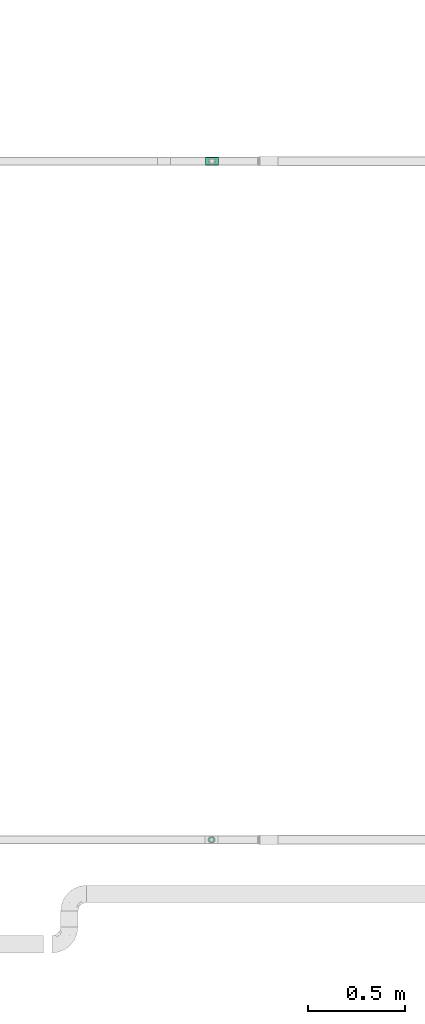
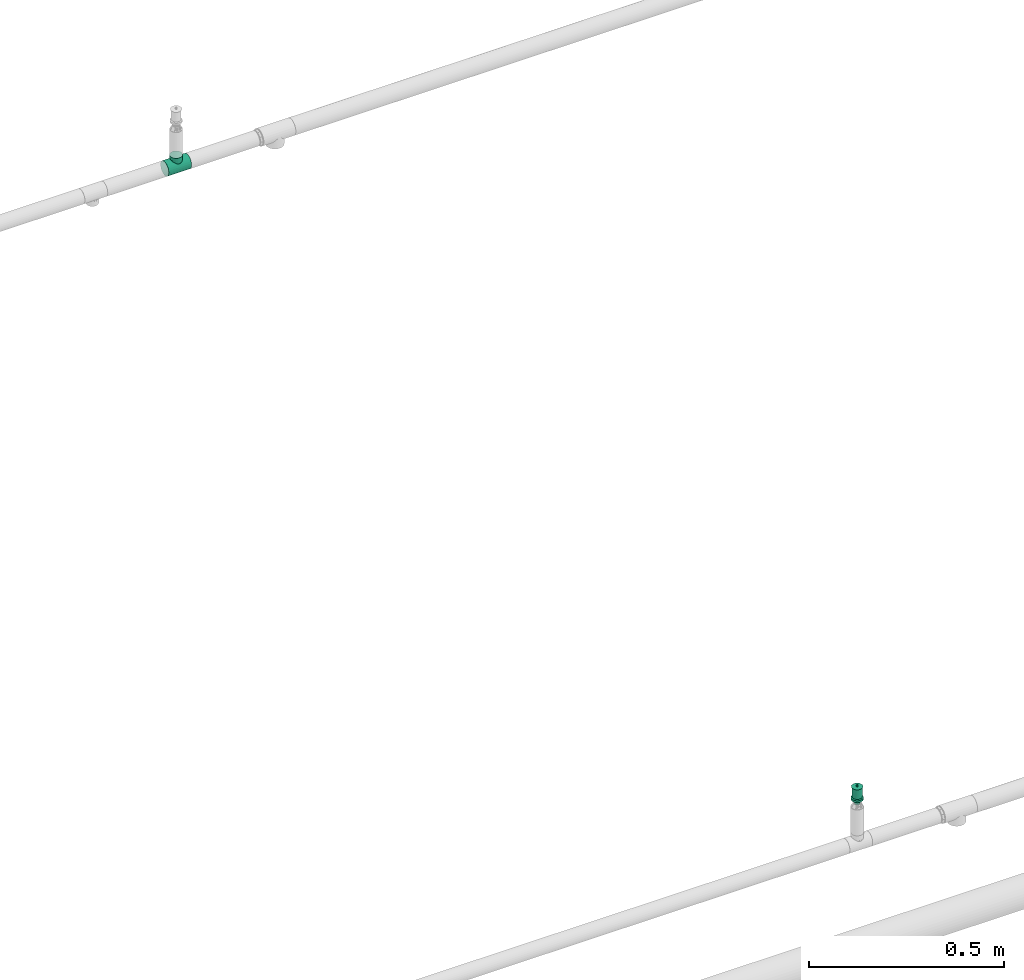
# One storey, part 73 of 94: 1 flow fitting, 1 flow terminal.
"""IFC2X3 building model written with IfcOpenShell, lengths in millimetres."""

from ifc_helpers import new_model, entity, si_unit, converted_unit, derived_unit, direction, frame, origin_with_axes, place, context, subcontext, project, spatial, open_shell, surface_model, source, transform, mapped, type_object, element, save


model = new_model("IFC2X3")

# Units and contexts
model_context = context("Model", 3, precision=0.01, world=frame((0.0, 4.29681676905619e-09, 0.0)), true_north=direction((4.01073788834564e-13, 1.0)))
plan_context = context("Plan", 3, precision=0.01, world=frame((0.0, 4.29681676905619e-09, 0.0)), true_north=direction((4.01073788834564e-13, 1.0)))
body_context = subcontext(model_context, "Body", "Model", "MODEL_VIEW")
ifc_project = project(units=[converted_unit("PLANEANGLEUNIT", "DEGREE", entity("IfcPositiveLengthMeasure", 0.0174532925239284), si_unit("PLANEANGLEUNIT", "RADIAN"), dimensions=[0, 0, 0, 0, 0, 0, 0]), si_unit("AREAUNIT", "SQUARE_METRE"), si_unit("LENGTHUNIT", "METRE", prefix="MILLI"), si_unit("MASSUNIT", "GRAM", prefix="KILO"), si_unit("POWERUNIT", "WATT"), si_unit("PRESSUREUNIT", "PASCAL"), si_unit("FORCEUNIT", "NEWTON", prefix="KILO"), si_unit("ELECTRICCURRENTUNIT", "AMPERE"), si_unit("THERMODYNAMICTEMPERATUREUNIT", "DEGREE_CELSIUS"), si_unit("TIMEUNIT", "SECOND"), si_unit("VOLUMEUNIT", "CUBIC_METRE"), derived_unit("LINEARVELOCITYUNIT", [(si_unit("LENGTHUNIT", "METRE"), 1), (si_unit("TIMEUNIT", "SECOND"), -1)]), derived_unit("VOLUMETRICFLOWRATEUNIT", [(si_unit("VOLUMEUNIT", "CUBIC_METRE"), 1), (si_unit("TIMEUNIT", "SECOND"), -1)]), derived_unit("THERMALTRANSMITTANCEUNIT", [(si_unit("POWERUNIT", "WATT"), 1), (si_unit("THERMODYNAMICTEMPERATUREUNIT", "KELVIN"), -1), (si_unit("AREAUNIT", "SQUARE_METRE"), -1)])], contexts=[model_context, plan_context])

# Site, building, storey
site_placement = place(None, frame((0.0, -4.29681676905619e-09, 0.0), z_axis=(0.0, 0.0, 1.0), x_axis=(1.0, 0.0, 0.0)))
site = spatial("IfcSite", under=ifc_project, at=site_placement, CompositionType="ELEMENT")
building_placement = place(site_placement, frame((0.0, 4.29681676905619e-09, 0.0), z_axis=(0.0, 0.0, 1.0), x_axis=(1.0, 0.0, 0.0)))
building = spatial("IfcBuilding", under=site, at=building_placement, Name="mc-building", CompositionType="ELEMENT")
storey_placement = place(building_placement, frame((0.0, 0.0, 200300.0), z_axis=(0.0, 0.0, 1.0), x_axis=(1.0, 0.0, 0.0)))
storey = spatial("IfcBuildingStorey", under=building, at=storey_placement, Name="Nivå C", CompositionType="ELEMENT", Elevation=200300.0)

# Flow fitting
pipe_fitting_type = type_object("IfcPipeFittingType", Name="magi_pipe_fe_tee_centric_90_NOR", PredefinedType="JUNCTION")
shared_shape_1 = source(origin_with_axes(), body_context, "Body", "SurfaceModel", [
    surface_model("IfcShellBasedSurfaceModel", [(-33.8, 0.0, -21.2), (-33.8, -5.48696, -20.47763), (-33.8, 5.48696, -20.47763), (-33.8, 10.6, -18.35974), (-33.8, 14.99066, -14.99066), (-33.8, -20.47763, 5.48696), (-33.8, 18.35974, -10.6), (-33.8, 10.6, 18.35974), (-33.8, -14.99066, -14.99066), (-33.8, -18.35974, -10.6), (-33.8, -10.6, -18.35974), (-33.8, -20.47763, -5.48696), (-33.8, -21.2, 0.0), (-33.8, 18.35974, 10.6), (-33.8, 20.47763, -5.48696), (-33.8, 20.47763, 5.48696), (-33.8, 21.2, 0.0), (-33.8, 14.99066, 14.99066), (-33.8, 5.48696, 20.47763), (-33.8, 0.0, 21.2), (-33.8, -18.35974, 10.6), (-33.8, -14.99066, 14.99066), (-33.8, -10.6, 18.35974), (-33.8, -5.48696, 20.47763), (33.8, 5.48696, -20.47763), (33.8, -5.48696, -20.47763), (33.8, 0.0, -21.2), (33.8, 14.99066, -14.99066), (33.8, 10.6, -18.35974), (33.8, 18.35974, -10.6), (33.8, 20.47763, -5.48696), (33.8, -21.2, 0.0), (33.8, -10.6, -18.35974), (33.8, -18.35974, -10.6), (33.8, -14.99066, -14.99066), (33.8, -20.47763, -5.48696), (33.8, -20.47763, 5.48696), (33.8, 21.2, 0.0), (33.8, 20.47763, 5.48696), (33.8, 18.35974, 10.6), (33.8, 10.6, 18.35974), (33.8, 14.99066, 14.99066), (33.8, 0.0, 21.2), (33.8, 5.48696, 20.47763), (33.8, -14.99066, 14.99066), (33.8, -18.35974, 10.6), (33.8, -10.6, 18.35974), (33.8, -5.48696, 20.47763), (16.9, -21.2, 0.0), (15.78624, -20.32327, 6.03364), (12.81343, -18.11115, 11.01935), (8.52479, -15.37862, 14.59239), (3.07939, -13.16482, 16.61708), (-16.9, -21.2, 0.0), (-15.78686, -20.32375, 6.032), (-8.52604, -15.37932, 14.59166), (-3.0848, -13.16609, 16.61608), (-12.81602, -18.11299, 11.01634), (3.07939, -13.16482, -16.61708), (12.81343, -18.11115, -11.01935), (8.52479, -15.37862, -14.59239), (15.78624, -20.32327, -6.03364), (-3.0848, -13.16609, -16.61608), (-8.52604, -15.37932, -14.59166), (-12.81602, -18.11299, -11.01634), (-15.78686, -20.32375, -6.032), (4.37404, -31.8, -16.32415), (-16.9, -31.8, 0.0), (0.0, -31.8, -16.9), (14.63583, -31.8, -8.45), (8.45, -31.8, -14.63583), (16.32415, -31.8, -4.37404), (11.9501, -31.8, -11.9501), (-11.9501, -31.8, -11.9501), (-8.45, -31.8, -14.63583), (-4.37404, -31.8, -16.32415), (-14.63583, -31.8, -8.45), (-16.32415, -31.8, -4.37404), (16.9, -31.8, 0.0), (8.45, -31.8, 14.63583), (16.32415, -31.8, 4.37404), (14.63583, -31.8, 8.45), (-8.45, -31.8, 14.63583), (11.9501, -31.8, 11.9501), (4.37404, -31.8, 16.32415), (-16.32415, -31.8, 4.37404), (-11.9501, -31.8, 11.9501), (-14.63583, -31.8, 8.45), (0.0, -31.8, 16.9), (-4.37404, -31.8, 16.32415), (-16.34343, -20.76188, 3.016), (16.34312, -20.76163, 3.01682), (-0.00271, -13.16546, 16.61658), (16.34312, -20.76163, -3.01682), (-0.00271, -13.16546, -16.61658), (-16.34343, -20.76188, -3.016)], [open_shell([[[0, 1, 2]], [[3, 2, 4]], [[5, 2, 1]], [[4, 2, 6]], [[6, 2, 7]], [[8, 9, 10]], [[1, 10, 9]], [[9, 11, 1]], [[12, 1, 11]], [[5, 1, 12]], [[13, 14, 6]], [[13, 15, 16]], [[6, 7, 13]], [[5, 7, 2]], [[17, 13, 7]], [[18, 7, 19]], [[20, 21, 5]], [[22, 5, 21]], [[23, 19, 22]], [[7, 5, 22]], [[22, 19, 7]], [[16, 14, 13]], [[24, 25, 26]], [[27, 24, 28]], [[29, 30, 24]], [[29, 24, 27]], [[31, 24, 30]], [[32, 33, 34]], [[33, 32, 25]], [[33, 31, 35]], [[31, 33, 25]], [[25, 24, 31]], [[30, 36, 31]], [[37, 38, 39]], [[37, 39, 40]], [[37, 40, 36]], [[40, 39, 41]], [[42, 40, 43]], [[36, 44, 45]], [[44, 36, 46]], [[46, 42, 47]], [[46, 36, 40]], [[40, 42, 46]], [[37, 36, 30]], [[31, 36, 48]], [[49, 48, 36]], [[36, 45, 49]], [[45, 44, 50]], [[51, 50, 44]], [[52, 51, 44]], [[44, 46, 52]], [[45, 50, 49]], [[53, 54, 5]], [[5, 12, 53]], [[54, 20, 5]], [[55, 56, 21]], [[20, 57, 21]], [[57, 20, 54]], [[21, 57, 55]], [[56, 22, 21]], [[52, 22, 56]], [[19, 47, 42]], [[23, 46, 47]], [[18, 42, 43]], [[39, 38, 15]], [[17, 40, 41]], [[13, 41, 39]], [[43, 40, 7]], [[16, 38, 37]], [[22, 46, 23]], [[23, 47, 19]], [[18, 19, 42]], [[43, 7, 18]], [[7, 40, 17]], [[13, 17, 41]], [[15, 13, 39]], [[38, 16, 15]], [[46, 22, 52]], [[6, 30, 29]], [[14, 37, 30]], [[4, 29, 27]], [[26, 25, 1]], [[2, 28, 24]], [[0, 24, 26]], [[27, 28, 3]], [[10, 25, 32]], [[16, 37, 14]], [[14, 30, 6]], [[4, 6, 29]], [[27, 3, 4]], [[3, 28, 2]], [[0, 2, 24]], [[1, 0, 26]], [[25, 10, 1]], [[32, 58, 10]], [[34, 59, 60]], [[59, 34, 33]], [[60, 58, 34]], [[34, 58, 32]], [[35, 31, 48]], [[35, 61, 33]], [[61, 35, 48]], [[33, 61, 59]], [[62, 63, 8]], [[8, 64, 9]], [[64, 8, 63]], [[62, 8, 10]], [[65, 53, 11]], [[65, 11, 9]], [[11, 53, 12]], [[65, 9, 64]], [[58, 62, 10]], [[66, 67, 68]], [[69, 66, 70]], [[69, 71, 66]], [[69, 70, 72]], [[67, 66, 71]], [[68, 73, 74]], [[74, 75, 68]], [[76, 67, 77]], [[73, 68, 76]], [[67, 76, 68]], [[71, 78, 67]], [[79, 78, 80]], [[79, 80, 81]], [[82, 67, 79]], [[79, 81, 83]], [[82, 79, 84]], [[85, 86, 87]], [[86, 85, 82]], [[82, 88, 89]], [[85, 67, 82]], [[84, 88, 82]], [[79, 67, 78]], [[85, 90, 67]], [[57, 87, 86]], [[85, 87, 54]], [[86, 82, 55]], [[85, 54, 90]], [[90, 53, 67]], [[54, 87, 57]], [[91, 49, 80]], [[55, 89, 56]], [[55, 57, 86]], [[88, 52, 92]], [[55, 82, 89]], [[52, 88, 84]], [[79, 51, 84]], [[50, 83, 81]], [[83, 51, 79]], [[81, 80, 49]], [[83, 50, 51]], [[51, 52, 84]], [[78, 91, 80]], [[49, 50, 81]], [[91, 78, 48]], [[88, 56, 89]], [[92, 56, 88]], [[71, 93, 78]], [[59, 69, 72]], [[71, 69, 61]], [[72, 70, 60]], [[93, 48, 78]], [[61, 69, 59]], [[60, 66, 58]], [[60, 59, 72]], [[68, 62, 94]], [[60, 70, 66]], [[95, 67, 53]], [[95, 65, 77]], [[71, 61, 93]], [[75, 62, 68]], [[65, 76, 77]], [[73, 76, 64]], [[68, 58, 66]], [[75, 63, 62]], [[63, 75, 74]], [[74, 73, 63]], [[63, 73, 64]], [[64, 76, 65]], [[67, 95, 77]], [[94, 58, 68]]])]),
])
flow_fitting_placement = place(storey_placement, frame((530502.26879, 413500.1625, 2850.0), z_axis=(0.0, -1.0, 0.0), x_axis=(-1.0, 0.0, 0.0)))
element("IfcFlowFitting", 1, at=flow_fitting_placement, inside=storey, type_object=pipe_fitting_type, Name="magi_pipe_fe_tee_centric_90_NOR", context=body_context, shape_type="MappedRepresentation", body=[
    mapped(shared_shape_1, transform((0.0, 0.0, 0.0), scale=1.0)),
])

# Flow terminal
fire_suppression_terminal_type = type_object("IfcFireSuppressionTerminalType", Name="68DGR-STD-STÅENDE", PredefinedType="NOTDEFINED")
shared_shape_2 = source(origin_with_axes(), body_context, "Body", "SurfaceModel", [
    surface_model("IfcShellBasedSurfaceModel", [(12.55704, 3.36465, 21.14766), (13.0, 0.0, 21.14766), (12.55704, -3.36465, 21.14766), (-12.55704, -3.36465, 21.14766), (-11.25833, -6.5, 21.14766), (-11.25833, -6.5, 51.0), (3.36465, -12.55704, 51.0), (3.36465, -12.55704, 21.14766), (6.5, -11.25833, 21.14766), (9.19239, -9.19239, 21.14766), (11.25833, -6.5, 21.14766), (9.19239, -9.19239, 51.0), (6.5, -11.25833, 51.0), (11.25833, -6.5, 51.0), (12.55704, -3.36465, 51.0), (13.0, 0.0, 51.0), (9.19239, 9.19239, 51.0), (11.25833, 6.5, 21.14766), (9.19239, 9.19239, 21.14766), (11.25833, 6.5, 51.0), (12.55704, 3.36465, 51.0), (6.5, 11.25833, 51.0), (6.5, 11.25833, 21.14766), (3.36465, 12.55704, 21.14766), (3.36465, 12.55704, 51.0), (-11.25833, 6.5, 51.0), (-11.25833, 6.5, 21.14766), (-12.55704, 3.36465, 21.14766), (0.0, -2.5, 51.0), (-2.5, 0.0, 51.0), (0.0, 2.5, 51.0), (2.5, 0.0, 51.0), (11.31371, 11.31371, 53.0), (-11.31371, 11.31371, 53.0), (-11.31371, -11.31371, 53.0), (11.31371, -11.31371, 53.0), (1.62635, 1.62635, 51.0), (2.16506, 1.25, 51.0), (1.99186, 1.15, 51.0), (-1.76777, 1.76777, 51.0), (-1.25, 2.16506, 51.0), (-1.62635, 1.62635, 51.0), (1.99186, -1.15, 51.0), (2.16506, -1.25, 51.0), (1.62635, -1.62635, 51.0), (-1.62635, -1.62635, 51.0), (-1.25, -2.16506, 51.0), (-1.76777, -1.76777, 51.0), (0.0, 7.3, 0.0), (1.94114, 7.24444, 0.0), (1.88938, 7.05126, 0.0), (5.16188, 5.16188, 0.0), (6.49519, 3.75, 0.0), (6.32199, 3.65, 0.0), (-5.3033, 5.3033, 0.0), (-3.75, 6.49519, 0.0), (-5.16188, 5.16188, 0.0), (6.32199, -3.65, 0.0), (6.49519, -3.75, 0.0), (5.16188, -5.16188, 0.0), (1.88938, -7.05126, 0.0), (1.94114, -7.24444, 0.0), (0.0, -7.3, 0.0), (-5.16188, -5.16188, 0.0), (-3.75, -6.49519, 0.0), (-5.3033, -5.3033, 0.0), (-3.36465, 12.55704, 51.0), (-6.5, 11.25833, 51.0), (0.0, 13.0, 51.0), (-9.19239, 9.19239, 51.0), (0.0, -13.0, 51.0), (-9.19239, -9.19239, 51.0), (-12.55704, -3.36465, 51.0), (-6.5, -11.25833, 51.0), (-3.36465, -12.55704, 51.0), (-7.5, 0.0, -0.1), (-7.24444, 1.94114, 0.1), (-7.24444, 1.94114, -0.1), (-6.49519, 3.75, 0.1), (-6.49519, 3.75, -0.1), (-3.75, 6.49519, -0.1), (-5.3033, 5.3033, -0.1), (-3.75, 6.49519, 0.1), (-5.3033, 5.3033, 0.1), (-1.94114, 7.24444, -0.1), (-1.94114, 7.24444, 0.1), (-7.5, 0.0, 0.1), (0.0, 7.5, 0.1), (0.0, 7.5, -0.1), (1.94114, 7.24444, 0.1), (1.94114, 7.24444, -0.1), (3.75, 6.49519, 0.1), (3.75, 6.49519, -0.1), (6.49519, 3.75, -0.1), (5.3033, 5.3033, -0.1), (6.49519, 3.75, 0.1), (5.3033, 5.3033, 0.1), (7.24444, 1.94114, -0.1), (7.24444, 1.94114, 0.1), (7.5, 0.0, 0.1), (7.5, 0.0, -0.1), (-7.24444, -1.94114, 0.1), (7.24444, -1.94114, 0.1), (5.3033, -5.3033, 0.1), (6.49519, -3.75, 0.1), (-6.49519, -3.75, 0.1), (0.0, -7.5, 0.1), (1.94114, -7.24444, 0.1), (3.75, -6.49519, 0.1), (-3.75, -6.49519, 0.1), (-1.94114, -7.24444, 0.1), (-5.3033, -5.3033, 0.1), (0.0, -7.5, -0.1), (-6.49519, -3.75, -0.1), (1.94114, -7.24444, -0.1), (3.75, -6.49519, -0.1), (5.3033, -5.3033, -0.1), (7.24444, -1.94114, -0.1), (6.49519, -3.75, -0.1), (-3.75, -6.49519, -0.1), (-5.3033, -5.3033, -0.1), (-1.94114, -7.24444, -0.1), (-7.24444, -1.94114, -0.1), (16.0, 0.0, 53.0), (0.0, -16.0, 53.0), (-16.0, 0.0, 53.0), (0.0, 16.0, 53.0), (0.64705, 2.41481, 57.0), (0.0, 2.5, 57.0), (1.25, 2.16506, 57.0), (-2.5, 0.0, 57.0), (1.76777, 1.76777, 57.0), (2.41481, 0.64705, 57.0), (2.16506, 1.25, 57.0), (-0.64705, 2.41481, 57.0), (-1.25, 2.16506, 57.0), (-1.76777, 1.76777, 57.0), (-2.16506, 1.25, 57.0), (-2.41481, 0.64705, 57.0), (2.5, 0.0, 57.0), (1.76777, -1.76777, 57.0), (2.16506, -1.25, 57.0), (2.41481, -0.64705, 57.0), (-2.41481, -0.64705, 57.0), (0.64705, -2.41481, 57.0), (1.25, -2.16506, 57.0), (0.0, -2.5, 57.0), (-1.76777, -1.76777, 57.0), (-2.16506, -1.25, 57.0), (-1.25, -2.16506, 57.0), (-0.64705, -2.41481, 57.0), (1.15, -1.99186, 51.0), (1.76777, -1.76777, 51.0), (1.25, -2.16506, 51.0), (0.59528, -2.22163, 51.0), (0.0, -2.3, 51.0), (0.64705, -2.41481, 51.0), (2.22163, -0.59528, 51.0), (2.3, 0.0, 51.0), (2.41481, -0.64705, 51.0), (-0.64705, -2.41481, 51.0), (-0.59528, -2.22163, 51.0), (-1.15, -1.99186, 51.0), (-2.16506, -1.25, 51.0), (-1.99186, -1.15, 51.0), (-2.22163, -0.59528, 51.0), (-2.3, 0.0, 51.0), (-2.41481, -0.64705, 51.0), (2.22163, 0.59528, 51.0), (2.41481, 0.64705, 51.0), (1.76777, 1.76777, 51.0), (1.15, 1.99186, 51.0), (1.25, 2.16506, 51.0), (0.59528, 2.22163, 51.0), (0.0, 2.3, 51.0), (0.64705, 2.41481, 51.0), (-1.99186, 1.15, 51.0), (-2.16506, 1.25, 51.0), (-2.41481, 0.64705, 51.0), (-2.22163, 0.59528, 51.0), (-0.64705, 2.41481, 51.0), (-0.59528, 2.22163, 51.0), (-1.15, 1.99186, 51.0), (-2.22163, 0.59528, 56.8), (-1.99186, 1.15, 56.8), (-1.15, 1.99186, 56.8), (-1.62635, 1.62635, 56.8), (-0.59528, 2.22163, 56.8), (-2.3, 0.0, 56.8), (0.0, 2.3, 56.8), (0.59528, 2.22163, 56.8), (1.15, 1.99186, 56.8), (1.99186, 1.15, 56.8), (1.62635, 1.62635, 56.8), (2.22163, 0.59528, 56.8), (2.3, 0.0, 56.8), (2.22163, -0.59528, 56.8), (1.99186, -1.15, 56.8), (1.62635, -1.62635, 56.8), (1.15, -1.99186, 56.8), (0.59528, -2.22163, 56.8), (0.0, -2.3, 56.8), (-1.99186, -1.15, 56.8), (-2.22163, -0.59528, 56.8), (-1.62635, -1.62635, 56.8), (-0.59528, -2.22163, 56.8), (-1.15, -1.99186, 56.8), (8.0, -13.85641, 13.0), (4.1411, -15.45481, 13.0), (0.0, -16.0, 13.0), (-4.1411, -15.45481, 13.0), (15.45481, -4.1411, 13.0), (13.85641, -8.0, 13.0), (11.31371, -11.31371, 13.0), (-16.0, 0.0, 13.0), (-8.0, -13.85641, 13.0), (-11.31371, -11.31371, 13.0), (-13.85641, -8.0, 13.0), (-15.45481, -4.1411, 13.0), (15.45481, 4.1411, 13.0), (4.1411, 15.45481, 13.0), (13.85641, 8.0, 13.0), (8.0, 13.85641, 13.0), (11.31371, 11.31371, 13.0), (-15.45481, 4.1411, 13.0), (-11.31371, 11.31371, 13.0), (-8.0, 13.85641, 13.0), (-13.85641, 8.0, 13.0), (-4.1411, 15.45481, 13.0), (0.0, 16.0, 13.0), (16.0, 0.0, 13.0), (7.05126, 1.88938, 12.8), (1.88938, 7.05126, 12.8), (3.65, 6.32199, 12.8), (6.32199, 3.65, 12.8), (5.16188, 5.16188, 12.8), (7.3, 0.0, 12.8), (0.0, 7.3, 12.8), (-3.65, 6.32199, 12.8), (-1.88938, 7.05126, 12.8), (-5.16188, 5.16188, 12.8), (-7.05126, 1.88938, 12.8), (-6.32199, 3.65, 12.8), (7.05126, -1.88938, 12.8), (0.0, -7.3, 12.8), (6.32199, -3.65, 12.8), (3.65, -6.32199, 12.8), (5.16188, -5.16188, 12.8), (1.88938, -7.05126, 12.8), (-7.3, 0.0, 12.8), (-6.32199, -3.65, 12.8), (-7.05126, -1.88938, 12.8), (-1.88938, -7.05126, 12.8), (-5.16188, -5.16188, 12.8), (-3.65, -6.32199, 12.8), (-7.05126, 1.88938, 0.0), (-7.3, 0.0, 0.0), (-6.32199, 3.65, 0.0), (-3.65, 6.32199, 0.0), (-1.88938, 7.05126, 0.0), (3.65, 6.32199, 0.0), (7.05126, 1.88938, 0.0), (7.3, 0.0, 0.0), (3.75, 6.49519, 13.0), (1.94114, 7.24444, 13.0), (7.5, 0.0, 13.0), (5.3033, 5.3033, 13.0), (7.24444, 1.94114, 13.0), (6.49519, 3.75, 13.0), (-5.3033, 5.3033, 13.0), (-7.24444, -1.94114, 13.0), (-1.94114, 7.24444, 13.0), (-3.75, 6.49519, 13.0), (0.0, 7.5, 13.0), (-6.49519, 3.75, 13.0), (-7.24444, 1.94114, 13.0), (7.24444, -1.94114, 13.0), (5.3033, -5.3033, 13.0), (6.49519, -3.75, 13.0), (-6.49519, -3.75, 13.0), (0.0, -7.5, 13.0), (1.94114, -7.24444, 13.0), (3.75, -6.49519, 13.0), (-7.5, 0.0, 13.0), (-3.75, -6.49519, 13.0), (-1.94114, -7.24444, 13.0), (-5.3033, -5.3033, 13.0), (3.65, -6.32199, 0.0), (5.3033, -5.3033, 0.0), (3.75, -6.49519, 0.0), (0.0, -7.5, 0.0), (7.05126, -1.88938, 0.0), (7.24444, -1.94114, 0.0), (7.5, 0.0, 0.0), (-1.94114, -7.24444, 0.0), (-1.88938, -7.05126, 0.0), (-3.65, -6.32199, 0.0), (-6.49519, -3.75, 0.0), (-6.32199, -3.65, 0.0), (-7.05126, -1.88938, 0.0), (-7.24444, -1.94114, 0.0), (-7.5, 0.0, 0.0), (7.24444, 1.94114, 0.0), (5.3033, 5.3033, 0.0), (3.75, 6.49519, 0.0), (0.0, 7.5, 0.0), (-6.49519, 3.75, 0.0), (-7.24444, 1.94114, 0.0), (-1.94114, 7.24444, 0.0), (-12.55704, 3.36465, 51.0), (-13.0, 0.0, 51.0), (0.0, -13.0, 21.14766), (-3.36465, -12.55704, 21.14766), (-6.5, -11.25833, 21.14766), (-9.19239, -9.19239, 21.14766), (-13.0, 0.0, 21.14766), (-9.19239, 9.19239, 21.14766), (-6.5, 11.25833, 21.14766), (-3.36465, 12.55704, 21.14766), (0.0, 13.0, 21.14766), (11.31371, 11.31371, 19.0), (8.0, 13.85641, 19.0), (4.1411, 15.45481, 19.0), (-8.0, 13.85641, 19.0), (16.0, 0.0, 19.0), (15.45481, 4.1411, 19.0), (13.85641, 8.0, 19.0), (-4.1411, 15.45481, 19.0), (0.0, 16.0, 19.0), (-11.31371, 11.31371, 19.0), (-13.85641, 8.0, 19.0), (-15.45481, 4.1411, 19.0), (15.45481, -4.1411, 19.0), (11.31371, -11.31371, 19.0), (13.85641, -8.0, 19.0), (-16.0, 0.0, 19.0), (0.0, -16.0, 19.0), (4.1411, -15.45481, 19.0), (8.0, -13.85641, 19.0), (-13.85641, -8.0, 19.0), (-11.31371, -11.31371, 19.0), (-15.45481, -4.1411, 19.0), (-8.0, -13.85641, 19.0), (-4.1411, -15.45481, 19.0)], [open_shell([[[0, 1, 2]], [[3, 4, 5]], [[6, 7, 8]], [[9, 10, 11]], [[9, 11, 12]], [[10, 13, 11]], [[14, 13, 2]], [[1, 15, 14]], [[16, 17, 18]], [[0, 19, 20]], [[20, 15, 1]], [[21, 16, 18]], [[22, 23, 24]], [[16, 19, 17]], [[25, 26, 27]], [[28, 29, 30]], [[30, 31, 28]], [[31, 30, 32]], [[33, 30, 29]], [[29, 28, 34]], [[35, 28, 31]], [[36, 37, 38]], [[39, 40, 41]], [[42, 43, 44]], [[45, 46, 47]], [[48, 49, 50]], [[51, 52, 53]], [[54, 55, 56]], [[57, 58, 59]], [[60, 61, 62]], [[63, 64, 65]], [[66, 67, 68]], [[67, 24, 68]], [[69, 25, 67]], [[15, 20, 14]], [[70, 6, 12]], [[5, 71, 72]], [[73, 74, 71]], [[72, 71, 74]], [[75, 76, 77]], [[77, 78, 79]], [[80, 81, 82]], [[83, 81, 79]], [[84, 80, 85]], [[76, 78, 77]], [[75, 86, 76]], [[80, 82, 85]], [[82, 81, 83]], [[79, 78, 83]], [[84, 85, 87]], [[87, 88, 84]], [[88, 89, 90]], [[90, 91, 92]], [[93, 94, 95]], [[96, 94, 92]], [[97, 93, 98]], [[91, 96, 92]], [[90, 89, 91]], [[97, 98, 99]], [[98, 93, 95]], [[94, 96, 95]], [[97, 99, 100]], [[87, 89, 88]], [[91, 89, 99]], [[96, 91, 98]], [[91, 99, 98]], [[95, 96, 98]], [[89, 83, 101]], [[85, 82, 87]], [[83, 87, 82]], [[78, 76, 83]], [[89, 87, 83]], [[76, 101, 83]], [[102, 99, 89]], [[103, 104, 102]], [[89, 105, 103]], [[103, 106, 107]], [[108, 103, 107]], [[106, 103, 105]], [[89, 101, 105]], [[101, 76, 86]], [[109, 110, 111]], [[105, 111, 110]], [[106, 105, 110]], [[103, 102, 89]], [[112, 113, 114]], [[115, 114, 116]], [[117, 118, 116]], [[113, 116, 114]], [[116, 113, 117]], [[119, 120, 121]], [[113, 121, 120]], [[121, 113, 112]], [[113, 122, 117]], [[75, 77, 122]], [[100, 117, 122]], [[100, 81, 97]], [[93, 97, 90]], [[90, 92, 94]], [[93, 90, 94]], [[90, 97, 81]], [[79, 81, 77]], [[77, 81, 122]], [[84, 88, 80]], [[81, 80, 88]], [[81, 88, 90]], [[100, 122, 81]], [[100, 102, 117]], [[117, 104, 118]], [[115, 116, 108]], [[103, 116, 118]], [[114, 115, 107]], [[102, 104, 117]], [[100, 99, 102]], [[115, 108, 107]], [[108, 116, 103]], [[118, 104, 103]], [[114, 107, 106]], [[106, 112, 114]], [[112, 110, 121]], [[121, 109, 119]], [[113, 120, 105]], [[111, 120, 119]], [[122, 113, 101]], [[109, 111, 119]], [[121, 110, 109]], [[122, 101, 86]], [[101, 113, 105]], [[120, 111, 105]], [[122, 86, 75]], [[106, 110, 112]], [[31, 123, 35]], [[35, 124, 28]], [[124, 34, 28]], [[29, 34, 125]], [[33, 32, 126]], [[33, 125, 124]], [[124, 32, 33]], [[124, 35, 123]], [[124, 125, 34]], [[123, 32, 124]], [[29, 125, 33]], [[33, 126, 30]], [[126, 32, 30]], [[31, 32, 123]], [[127, 128, 129]], [[129, 130, 131]], [[132, 131, 130]], [[133, 131, 132]], [[130, 129, 128]], [[134, 135, 128]], [[136, 128, 135]], [[137, 138, 136]], [[128, 136, 130]], [[138, 130, 136]], [[139, 132, 130]], [[140, 141, 142]], [[143, 140, 139]], [[144, 140, 143]], [[145, 140, 144]], [[146, 144, 147]], [[139, 130, 143]], [[143, 148, 144]], [[149, 150, 147]], [[144, 148, 147]], [[146, 147, 150]], [[140, 142, 139]], [[151, 152, 153]], [[154, 151, 153]], [[155, 154, 156]], [[153, 156, 154]], [[28, 155, 156]], [[44, 152, 151]], [[157, 158, 159]], [[31, 159, 158]], [[43, 157, 159]], [[152, 44, 43]], [[157, 43, 42]], [[160, 161, 28]], [[161, 155, 28]], [[162, 161, 160]], [[160, 46, 162]], [[162, 46, 45]], [[47, 163, 164]], [[165, 164, 163]], [[45, 47, 164]], [[166, 165, 167]], [[163, 167, 165]], [[29, 166, 167]], [[168, 169, 31]], [[38, 169, 168]], [[169, 38, 37]], [[170, 37, 36]], [[171, 172, 170]], [[173, 172, 171]], [[174, 175, 173]], [[172, 173, 175]], [[30, 175, 174]], [[170, 36, 171]], [[39, 176, 177]], [[41, 176, 39]], [[178, 177, 176]], [[178, 179, 29]], [[176, 179, 178]], [[179, 166, 29]], [[180, 30, 181]], [[182, 180, 181]], [[182, 41, 40]], [[180, 182, 40]], [[181, 30, 174]], [[31, 158, 168]], [[29, 138, 178]], [[178, 137, 177]], [[40, 39, 135]], [[136, 39, 177]], [[180, 40, 134]], [[138, 137, 178]], [[29, 130, 138]], [[40, 135, 134]], [[135, 39, 136]], [[177, 137, 136]], [[180, 134, 128]], [[128, 30, 180]], [[30, 127, 175]], [[175, 129, 172]], [[37, 170, 133]], [[131, 170, 172]], [[169, 37, 132]], [[129, 131, 172]], [[175, 127, 129]], [[169, 132, 139]], [[132, 37, 133]], [[170, 131, 133]], [[169, 139, 31]], [[128, 127, 30]], [[179, 183, 166]], [[176, 184, 179]], [[185, 41, 182]], [[176, 41, 186]], [[187, 182, 181]], [[179, 184, 183]], [[183, 188, 166]], [[187, 185, 182]], [[186, 41, 185]], [[186, 184, 176]], [[189, 187, 181]], [[181, 174, 189]], [[173, 190, 174]], [[171, 191, 173]], [[192, 36, 38]], [[171, 36, 193]], [[194, 38, 168]], [[171, 193, 191]], [[191, 190, 173]], [[195, 194, 168]], [[192, 38, 194]], [[192, 193, 36]], [[158, 195, 168]], [[174, 190, 189]], [[31, 142, 159]], [[159, 141, 43]], [[153, 152, 145]], [[140, 152, 43]], [[156, 153, 144]], [[142, 141, 159]], [[31, 139, 142]], [[153, 145, 144]], [[145, 152, 140]], [[43, 141, 140]], [[156, 144, 146]], [[146, 28, 156]], [[28, 150, 160]], [[160, 149, 46]], [[163, 47, 148]], [[147, 47, 46]], [[167, 163, 143]], [[149, 147, 46]], [[160, 150, 149]], [[167, 143, 130]], [[143, 163, 148]], [[47, 147, 148]], [[167, 130, 29]], [[146, 150, 28]], [[190, 191, 193]], [[190, 193, 195]], [[194, 195, 193]], [[194, 193, 192]], [[190, 195, 186]], [[189, 185, 187]], [[185, 189, 186]], [[186, 183, 184]], [[186, 189, 190]], [[186, 196, 183]], [[186, 195, 196]], [[196, 197, 198]], [[196, 198, 199]], [[199, 200, 201]], [[199, 201, 196]], [[196, 201, 202]], [[188, 202, 203]], [[183, 202, 188]], [[204, 205, 206]], [[205, 204, 202]], [[201, 205, 202]], [[202, 183, 196]], [[157, 196, 158]], [[42, 197, 157]], [[199, 44, 151]], [[42, 44, 198]], [[200, 151, 154]], [[157, 197, 196]], [[196, 195, 158]], [[200, 199, 151]], [[198, 44, 199]], [[198, 197, 42]], [[201, 200, 154]], [[154, 155, 201]], [[161, 205, 155]], [[162, 206, 161]], [[202, 45, 164]], [[162, 45, 204]], [[203, 164, 165]], [[162, 204, 206]], [[206, 205, 161]], [[188, 203, 165]], [[202, 164, 203]], [[202, 204, 45]], [[166, 188, 165]], [[155, 205, 201]], [[207, 208, 209]], [[207, 209, 210]], [[211, 212, 213]], [[213, 207, 214]], [[211, 213, 214]], [[215, 216, 210]], [[217, 210, 216]], [[217, 218, 210]], [[218, 207, 210]], [[218, 214, 207]], [[214, 219, 211]], [[220, 219, 214]], [[221, 219, 220]], [[220, 222, 223]], [[221, 220, 223]], [[214, 224, 220]], [[225, 226, 227]], [[224, 227, 226]], [[228, 229, 226]], [[220, 224, 226]], [[226, 229, 220]], [[219, 230, 211]], [[231, 232, 233]], [[234, 233, 235]], [[231, 236, 232]], [[231, 233, 234]], [[232, 236, 237]], [[237, 238, 239]], [[238, 237, 240]], [[240, 241, 242]], [[240, 237, 236]], [[236, 241, 240]], [[236, 243, 241]], [[244, 243, 245]], [[246, 245, 247]], [[246, 248, 244]], [[246, 244, 245]], [[243, 244, 249]], [[249, 250, 251]], [[250, 249, 252]], [[253, 252, 254]], [[252, 253, 250]], [[249, 244, 252]], [[243, 249, 241]], [[255, 241, 256]], [[257, 242, 255]], [[238, 56, 258]], [[257, 56, 240]], [[239, 258, 259]], [[255, 242, 241]], [[241, 249, 256]], [[239, 238, 258]], [[240, 56, 238]], [[240, 242, 257]], [[237, 239, 259]], [[259, 48, 237]], [[50, 232, 48]], [[260, 233, 50]], [[234, 51, 53]], [[260, 51, 235]], [[231, 53, 261]], [[260, 235, 233]], [[233, 232, 50]], [[236, 231, 261]], [[234, 53, 231]], [[234, 235, 51]], [[262, 236, 261]], [[48, 232, 237]], [[263, 264, 265]], [[266, 263, 267]], [[263, 265, 267]], [[268, 266, 267]], [[264, 269, 270]], [[271, 272, 273]], [[269, 273, 272]], [[274, 275, 269]], [[264, 273, 269]], [[275, 270, 269]], [[276, 265, 264]], [[277, 278, 276]], [[264, 279, 277]], [[277, 280, 281]], [[282, 277, 281]], [[280, 277, 279]], [[264, 270, 279]], [[270, 275, 283]], [[284, 285, 286]], [[279, 286, 285]], [[280, 279, 285]], [[277, 276, 264]], [[287, 288, 289]], [[60, 287, 289]], [[290, 62, 61]], [[289, 61, 60]], [[59, 288, 287]], [[291, 262, 292]], [[293, 292, 262]], [[58, 291, 292]], [[288, 59, 58]], [[291, 58, 57]], [[294, 295, 290]], [[296, 295, 294]], [[294, 64, 296]], [[64, 63, 296]], [[295, 62, 290]], [[65, 297, 298]], [[299, 298, 297]], [[63, 65, 298]], [[256, 299, 300]], [[297, 300, 299]], [[301, 256, 300]], [[261, 302, 293]], [[53, 302, 261]], [[302, 53, 52]], [[303, 52, 51]], [[260, 304, 303]], [[50, 304, 260]], [[304, 50, 49]], [[305, 49, 48]], [[303, 51, 260]], [[54, 257, 306]], [[56, 257, 54]], [[307, 306, 257]], [[307, 255, 301]], [[257, 255, 307]], [[255, 256, 301]], [[308, 305, 259]], [[258, 308, 259]], [[55, 258, 56]], [[308, 258, 55]], [[259, 305, 48]], [[293, 262, 261]], [[301, 275, 307]], [[307, 274, 306]], [[55, 54, 272]], [[269, 54, 306]], [[308, 55, 271]], [[275, 274, 307]], [[301, 283, 275]], [[55, 272, 271]], [[272, 54, 269]], [[306, 274, 269]], [[308, 271, 273]], [[273, 305, 308]], [[305, 264, 49]], [[49, 263, 304]], [[52, 303, 268]], [[266, 303, 304]], [[302, 52, 267]], [[263, 266, 304]], [[49, 264, 263]], [[302, 267, 265]], [[267, 52, 268]], [[303, 266, 268]], [[302, 265, 293]], [[273, 264, 305]], [[293, 276, 292]], [[292, 278, 58]], [[289, 288, 282]], [[277, 288, 58]], [[61, 289, 281]], [[276, 278, 292]], [[293, 265, 276]], [[289, 282, 281]], [[282, 288, 277]], [[58, 278, 277]], [[61, 281, 280]], [[280, 290, 61]], [[290, 285, 294]], [[294, 284, 64]], [[297, 65, 279]], [[286, 65, 64]], [[300, 297, 270]], [[284, 286, 64]], [[294, 285, 284]], [[300, 270, 283]], [[270, 297, 279]], [[65, 286, 279]], [[300, 283, 301]], [[280, 285, 290]], [[291, 243, 262]], [[57, 245, 291]], [[246, 59, 287]], [[57, 59, 247]], [[248, 287, 60]], [[291, 245, 243]], [[243, 236, 262]], [[248, 246, 287]], [[247, 59, 246]], [[247, 245, 57]], [[244, 248, 60]], [[60, 62, 244]], [[295, 252, 62]], [[296, 254, 295]], [[250, 63, 298]], [[296, 63, 253]], [[251, 298, 299]], [[296, 253, 254]], [[254, 252, 295]], [[249, 251, 299]], [[250, 298, 251]], [[250, 253, 63]], [[256, 249, 299]], [[62, 252, 244]], [[16, 21, 24]], [[20, 16, 24]], [[24, 67, 72]], [[19, 16, 20]], [[24, 72, 20]], [[25, 72, 67]], [[309, 310, 25]], [[11, 13, 14]], [[72, 11, 20]], [[74, 12, 11]], [[12, 74, 70]], [[72, 25, 310]], [[72, 74, 11]], [[11, 14, 20]], [[8, 7, 311]], [[8, 311, 312]], [[2, 10, 9]], [[3, 9, 8]], [[3, 26, 9]], [[313, 314, 312]], [[3, 312, 314]], [[4, 3, 314]], [[3, 8, 312]], [[315, 26, 3]], [[2, 9, 26]], [[0, 2, 26]], [[17, 0, 18]], [[23, 22, 18]], [[0, 23, 18]], [[23, 0, 26]], [[316, 317, 26]], [[26, 315, 27]], [[318, 319, 317]], [[23, 26, 317]], [[23, 317, 319]], [[316, 26, 25]], [[318, 317, 67]], [[69, 317, 316]], [[319, 318, 66]], [[310, 309, 315]], [[27, 315, 309]], [[25, 27, 309]], [[25, 69, 316]], [[317, 69, 67]], [[67, 66, 318]], [[66, 68, 319]], [[22, 21, 18]], [[0, 17, 19]], [[1, 0, 20]], [[68, 24, 23]], [[24, 21, 22]], [[319, 68, 23]], [[1, 14, 2]], [[2, 13, 10]], [[6, 311, 7]], [[6, 8, 12]], [[12, 8, 9]], [[6, 70, 311]], [[313, 312, 74]], [[313, 73, 314]], [[71, 4, 314]], [[315, 3, 72]], [[70, 74, 312]], [[74, 73, 313]], [[73, 71, 314]], [[71, 5, 4]], [[3, 5, 72]], [[72, 310, 315]], [[311, 70, 312]], [[320, 321, 322]], [[320, 322, 323]], [[320, 324, 325]], [[326, 320, 325]], [[324, 320, 323]], [[327, 323, 328]], [[323, 322, 328]], [[329, 330, 323]], [[331, 323, 330]], [[323, 331, 324]], [[331, 332, 324]], [[333, 334, 332]], [[335, 333, 331]], [[336, 337, 338]], [[335, 338, 333]], [[338, 335, 336]], [[339, 340, 341]], [[335, 341, 340]], [[342, 343, 340]], [[335, 340, 343]], [[343, 336, 335]], [[332, 331, 333]], [[214, 331, 224]], [[224, 330, 227]], [[226, 225, 323]], [[329, 225, 227]], [[228, 226, 327]], [[331, 330, 224]], [[214, 335, 331]], [[226, 323, 327]], [[323, 225, 329]], [[227, 330, 329]], [[228, 327, 328]], [[328, 229, 228]], [[229, 322, 220]], [[220, 321, 222]], [[221, 223, 326]], [[320, 223, 222]], [[219, 221, 325]], [[321, 320, 222]], [[220, 322, 321]], [[219, 325, 324]], [[325, 221, 326]], [[223, 320, 326]], [[219, 324, 230]], [[328, 322, 229]], [[230, 332, 211]], [[211, 334, 212]], [[207, 213, 338]], [[333, 213, 212]], [[208, 207, 337]], [[332, 334, 211]], [[230, 324, 332]], [[207, 338, 337]], [[338, 213, 333]], [[212, 334, 333]], [[208, 337, 336]], [[336, 209, 208]], [[209, 343, 210]], [[210, 342, 215]], [[217, 216, 339]], [[340, 216, 215]], [[218, 217, 341]], [[342, 340, 215]], [[210, 343, 342]], [[218, 341, 335]], [[341, 217, 339]], [[216, 340, 339]], [[218, 335, 214]], [[336, 343, 209]]])]),
])
flow_terminal_placement = place(storey_placement, frame((530500.33534, 410000.1625, 2972.0), z_axis=(0.0, 0.0, 1.0), x_axis=(-1.0, 0.0, 0.0)))
element("IfcFlowTerminal", 2, at=flow_terminal_placement, inside=storey, type_object=fire_suppression_terminal_type, Name="68DGR-STD-STÅENDE", context=body_context, shape_type="MappedRepresentation", body=[
    mapped(shared_shape_2, transform((0.0, 0.0, 0.0), scale=1.0)),
])

save(model, "model.ifc")
